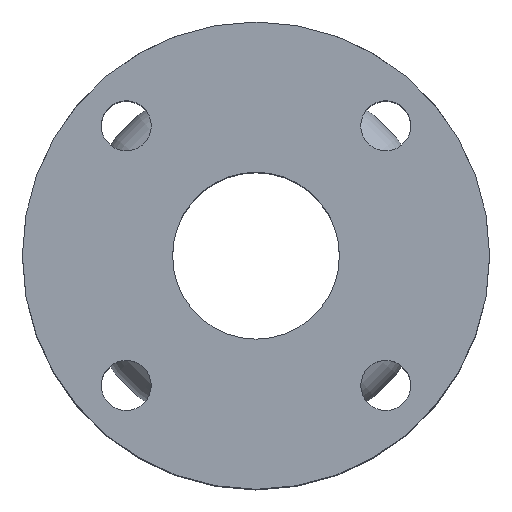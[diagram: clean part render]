
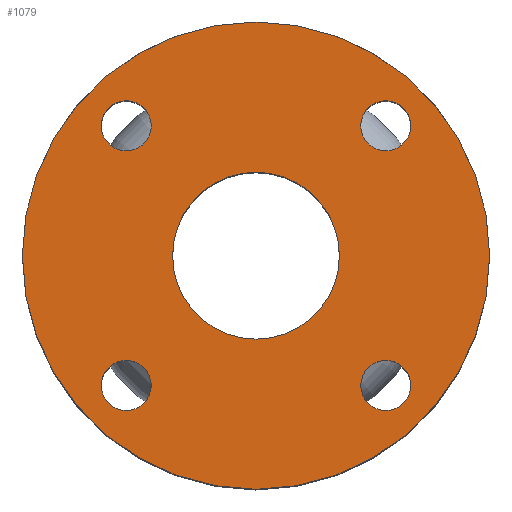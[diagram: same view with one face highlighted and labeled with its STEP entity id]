
A CAD part, top view. The second image highlights one B-rep face of the part: STEP entity #1079.
In plain terms, the highlighted planar face has unit normal (0, 0, 1).
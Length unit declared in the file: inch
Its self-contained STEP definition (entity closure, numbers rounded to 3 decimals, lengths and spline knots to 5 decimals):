
#32=FACE_BOUND('',#193,.T.);
#33=FACE_BOUND('',#194,.T.);
#34=FACE_BOUND('',#195,.T.);
#35=FACE_BOUND('',#196,.T.);
#36=FACE_BOUND('',#197,.T.);
#64=PLANE('',#1217);
#116=FACE_OUTER_BOUND('',#192,.T.);
#192=EDGE_LOOP('',(#796));
#193=EDGE_LOOP('',(#797));
#194=EDGE_LOOP('',(#798));
#195=EDGE_LOOP('',(#799));
#196=EDGE_LOOP('',(#800));
#197=EDGE_LOOP('',(#801));
#404=CIRCLE('',#1202,0.375);
#406=CIRCLE('',#1205,0.375);
#408=CIRCLE('',#1208,0.375);
#410=CIRCLE('',#1211,0.375);
#411=CIRCLE('',#1213,1.25);
#413=CIRCLE('',#1216,3.5);
#480=VERTEX_POINT('',#1737);
#482=VERTEX_POINT('',#1743);
#484=VERTEX_POINT('',#1749);
#486=VERTEX_POINT('',#1755);
#487=VERTEX_POINT('',#1759);
#489=VERTEX_POINT('',#1765);
#589=EDGE_CURVE('',#480,#480,#404,.T.);
#592=EDGE_CURVE('',#482,#482,#406,.T.);
#595=EDGE_CURVE('',#484,#484,#408,.T.);
#598=EDGE_CURVE('',#486,#486,#410,.T.);
#599=EDGE_CURVE('',#487,#487,#411,.T.);
#603=EDGE_CURVE('',#489,#489,#413,.T.);
#796=ORIENTED_EDGE('',*,*,#603,.F.);
#797=ORIENTED_EDGE('',*,*,#589,.T.);
#798=ORIENTED_EDGE('',*,*,#592,.T.);
#799=ORIENTED_EDGE('',*,*,#595,.T.);
#800=ORIENTED_EDGE('',*,*,#598,.T.);
#801=ORIENTED_EDGE('',*,*,#599,.T.);
#1079=ADVANCED_FACE('',(#116,#32,#33,#34,#35,#36),#64,.F.);
#1202=AXIS2_PLACEMENT_3D('',#1739,#1422,#1423);
#1205=AXIS2_PLACEMENT_3D('',#1745,#1429,#1430);
#1208=AXIS2_PLACEMENT_3D('',#1751,#1436,#1437);
#1211=AXIS2_PLACEMENT_3D('',#1757,#1443,#1444);
#1213=AXIS2_PLACEMENT_3D('',#1760,#1447,#1448);
#1216=AXIS2_PLACEMENT_3D('',#1767,#1455,#1456);
#1217=AXIS2_PLACEMENT_3D('',#1768,#1457,#1458);
#1422=DIRECTION('center_axis',(0.,0.,
-1.));
#1423=DIRECTION('ref_axis',(-1.,0.,0.));
#1429=DIRECTION('center_axis',(0.,0.,
-1.));
#1430=DIRECTION('ref_axis',(0.,1.,0.));
#1436=DIRECTION('center_axis',(0.,0.,
-1.));
#1437=DIRECTION('ref_axis',(0.,-1.,0.));
#1443=DIRECTION('center_axis',(0.,0.,
-1.));
#1444=DIRECTION('ref_axis',(1.,0.,0.));
#1447=DIRECTION('center_axis',(0.,0.,
-1.));
#1448=DIRECTION('ref_axis',(-1.,0.,0.));
#1455=DIRECTION('center_axis',(0.,0.,
-1.));
#1456=DIRECTION('ref_axis',(1.,0.,0.));
#1457=DIRECTION('center_axis',(0.,0.,
-1.));
#1458=DIRECTION('ref_axis',(1.,0.,0.));
#1737=CARTESIAN_POINT('',(2.31954,1.94454,3.));
#1739=CARTESIAN_POINT('Origin',(1.94454,1.94454,3.));
#1743=CARTESIAN_POINT('',(1.94454,-2.31954,3.));
#1745=CARTESIAN_POINT('Origin',(1.94454,-1.94454,3.));
#1749=CARTESIAN_POINT('',(-1.94454,2.31954,3.));
#1751=CARTESIAN_POINT('Origin',(-1.94454,1.94454,3.));
#1755=CARTESIAN_POINT('',(-2.31954,-1.94454,3.));
#1757=CARTESIAN_POINT('Origin',(-1.94454,-1.94454,3.));
#1759=CARTESIAN_POINT('',(1.25,0.,3.));
#1760=CARTESIAN_POINT('Origin',(0.,0.,
3.));
#1765=CARTESIAN_POINT('',(-3.5,0.,3.));
#1767=CARTESIAN_POINT('Origin',(0.,0.,
3.));
#1768=CARTESIAN_POINT('Origin',(0.,0.,
3.));
